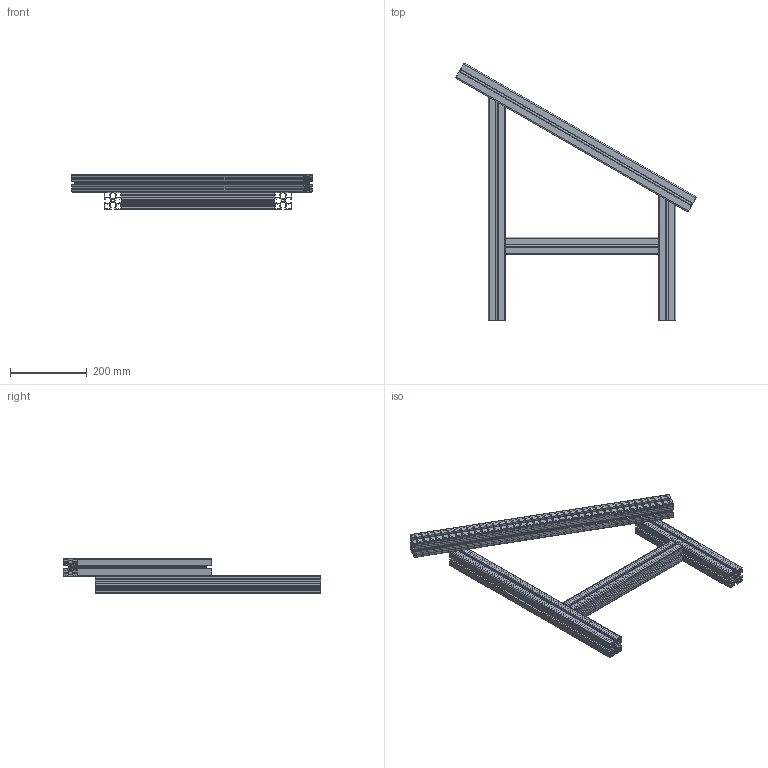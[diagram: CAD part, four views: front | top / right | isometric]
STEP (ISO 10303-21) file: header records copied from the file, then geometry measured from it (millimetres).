
FILE_DESCRIPTION (( 'STEP AP203' ), '1' );
FILE_NAME ('084.106.316.STEP', '2022-07-08T11:52:55', ( '' ), ( '' ), 'SwSTEP 2.0', 'SolidWorks 2021', '' );
FILE_SCHEMA (( 'CONFIG_CONTROL_DESIGN' ));
Length unit declared in the file: millimetre
Products named in the file (1): 084.106.316
Bounding box: 628.72 x 673.49 x 90 mm (x, y, z)
Volume: 1144208.3 mm3; surface area: 1153517.5 mm2
Topology: 4 solids, 4 shells, 556 faces, 1644 edges, 1096 vertices
Faces by surface type: plane 296, cylinder 260
Entity records: 18839 total; most frequent: CARTESIAN_POINT 3297, ORIENTED_EDGE 3288, DIRECTION 3278, EDGE_CURVE 1644, LINE 1124, VECTOR 1124, VERTEX_POINT 1096, AXIS2_PLACEMENT_3D 1077
